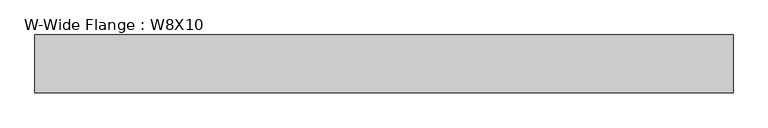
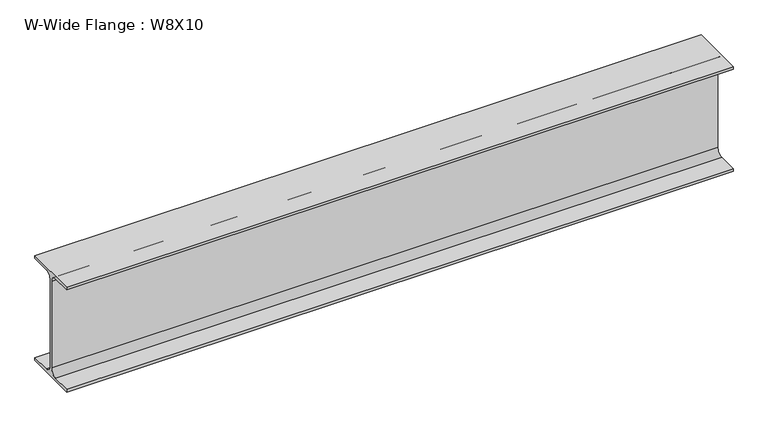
"""IFC4 building model written with IfcOpenShell, lengths in millimetres: beam geometry, W-Wide Flange : W8X10."""

from ifc_helpers import new_model, si_unit, point, frame, frame_2d, origin, place, context, project, spatial, polyline, circle_curve, trimmed, segment, composite_curve, outline, extrude, source, transform, mapped, element, save


def w_wide_flange_w8x10_8db334b5(model_context):
    return source(origin(), model_context, "Body", "SweptSolid", [
        extrude(outline(composite_curve([segment(polyline([(50.038, -94.996), (50.038, -100.203), (-50.038, -100.203), (-50.038, -94.996), (-14.4145, -94.996)]), True, "CONTINUOUS"), segment(trimmed(circle_curve(frame_2d((-14.4145, -82.7405)), 12.2555), [point((-14.4145, -94.996))], [point((-2.159, -82.7405))], True, "CARTESIAN"), True, "CONTINUOUS"), segment(polyline([(-2.159, -82.7405), (-2.159, 82.7405)]), True, "CONTINUOUS"), segment(trimmed(circle_curve(frame_2d((-14.4145, 82.7405)), 12.2555), [point((-2.159, 82.7405))], [point((-14.4145, 94.996))], True, "CARTESIAN"), True, "CONTINUOUS"), segment(polyline([(-14.4145, 94.996), (-50.038, 94.996), (-50.038, 100.203), (50.038, 100.203), (50.038, 94.996), (14.4145, 94.996)]), True, "CONTINUOUS"), segment(trimmed(circle_curve(frame_2d((14.4145, 82.7405)), 12.2555), [point((14.4145, 94.996))], [point((2.159, 82.7405))], True, "CARTESIAN"), True, "CONTINUOUS"), segment(polyline([(2.159, 82.7405), (2.159, -82.7405)]), True, "CONTINUOUS"), segment(trimmed(circle_curve(frame_2d((14.4145, -82.7405)), 12.2555), [point((2.159, -82.7405))], [point((14.4145, -94.996))], True, "CARTESIAN"), True, "CONTINUOUS"), segment(polyline([(14.4145, -94.996), (50.038, -94.996)]), True, "CONTINUOUS")], self_intersect=False)), frame((-553.767415, 0.0, 0.0), z_axis=(1.0, 0.0, 0.0), x_axis=(0.0, 1.0, 0.0)), (0.0, 0.0, 1.0), 1205.5296406),
    ])


if __name__ == "__main__":
    model = new_model("IFC4")
    model_context = context("Model", 3, world=origin())
    ifc_project = project(units=[si_unit("LENGTHUNIT", "METRE", prefix="MILLI")], contexts=[model_context])
    site = spatial("IfcSite", under=ifc_project)
    building = spatial("IfcBuilding", under=site)
    placement = place(None, origin())
    w_wide_flange_w8x10_shape = w_wide_flange_w8x10_8db334b5(model_context)
    element("IfcBeam", 1, ObjectType="W-Wide Flange : W8X10", at=placement, inside=building, context=model_context, shape_type="MappedRepresentation", body=[
        mapped(w_wide_flange_w8x10_shape, transform((0.0, 0.0, 0.0), x_axis=(1.0, 0.0, 0.0), y_axis=(0.0, 1.0, 0.0), z_axis=(0.0, 0.0, 1.0))),
    ])
    save(model, "model.ifc")
